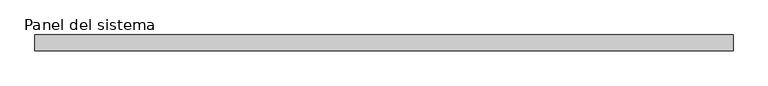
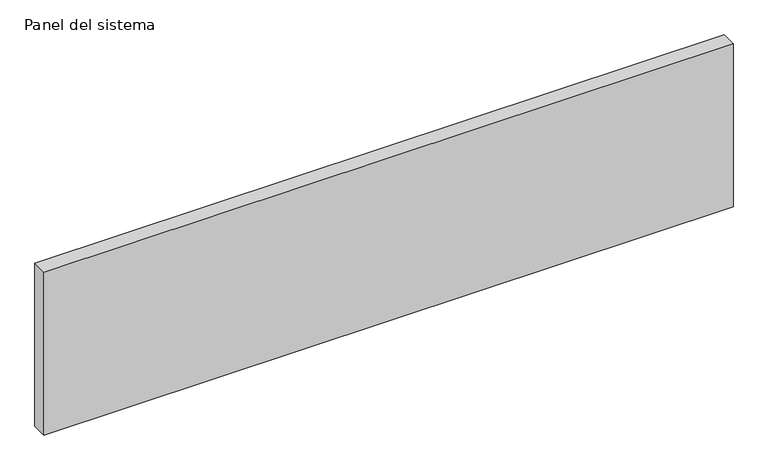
"""IFC4 building model written with IfcOpenShell, lengths in millimetres: plate geometry, Panel del sistema : Hiansa Panel - Fachada Panel LISO HFM Hor - 100mm."""

from ifc_helpers import new_model, si_unit, origin, origin_with_axes, place, context, project, spatial, polyline, outline, extrude, source, transform, mapped, element, save


def panel_del_sistema_5ed96f91(model_context):
    return source(origin(), model_context, "Body", "SweptSolid", [
        extrude(outline(polyline([(2200.0, -100.0), (-2200.0, -100.0), (-2200.0, 0.0), (2200.0, 0.0), (2200.0, -100.0)])), origin_with_axes(), (0.0, 0.0, 1.0), 1100.0),
    ])


if __name__ == "__main__":
    model = new_model("IFC4")
    model_context = context("Model", 3, world=origin())
    ifc_project = project(units=[si_unit("LENGTHUNIT", "METRE", prefix="MILLI")], contexts=[model_context])
    site = spatial("IfcSite", under=ifc_project)
    building = spatial("IfcBuilding", under=site)
    placement = place(None, origin())
    panel_del_sistema_shape = panel_del_sistema_5ed96f91(model_context)
    element("IfcPlate", 1, ObjectType="Panel del sistema : Hiansa Panel - Fachada Panel LISO HFM Hor - 100mm", at=placement, inside=building, context=model_context, shape_type="MappedRepresentation", body=[
        mapped(panel_del_sistema_shape, transform((0.0, 0.0, 0.0), x_axis=(1.0, 0.0, 0.0), y_axis=(0.0, 1.0, 0.0), z_axis=(0.0, 0.0, 1.0))),
    ])
    save(model, "model.ifc")
